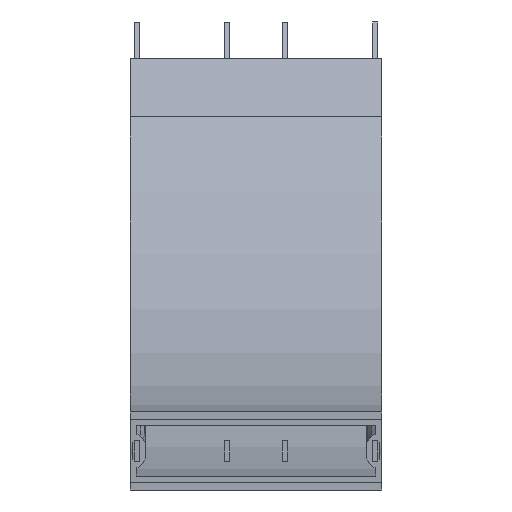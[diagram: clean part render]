
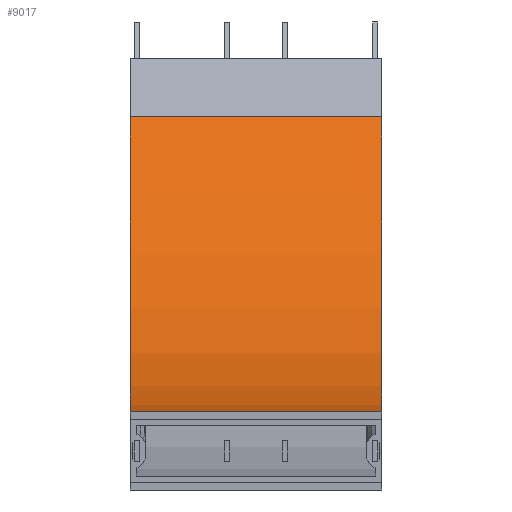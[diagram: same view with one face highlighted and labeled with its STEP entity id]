
A CAD part, front view. The second image highlights one B-rep face of the part: STEP entity #9017.
In plain terms, the highlighted cylindrical face has radius 703.5 mm (diameter 1407 mm), a partial arc.
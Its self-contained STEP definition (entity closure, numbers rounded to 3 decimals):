
#1490 = CIRCLE ( 'NONE', #8290, 703.5 ) ;
#1494 = EDGE_CURVE ( 'NONE', #6695, #5690, #5307, .T. ) ;
#1569 = DIRECTION ( 'NONE',  ( 0., 0., 1. ) ) ;
#1655 = DIRECTION ( 'NONE',  ( 0., 0.866, -0.5 ) ) ;
#1683 = EDGE_CURVE ( 'NONE', #5690, #7223, #2673, .T. ) ;
#1761 = EDGE_CURVE ( 'NONE', #10192, #7223, #2858, .T. ) ;
#2199 = CARTESIAN_POINT ( 'NONE',  ( -150., 80., 46.5 ) ) ;
#2673 = CIRCLE ( 'NONE', #6654, 703.5 ) ;
#2813 = DIRECTION ( 'NONE',  ( -1., 0., 0. ) ) ;
#2858 = LINE ( 'NONE', #2956, #6490 ) ;
#2956 = CARTESIAN_POINT ( 'NONE',  ( -150., 80., 46.5 ) ) ;
#3937 = ORIENTED_EDGE ( 'NONE', *, *, #9902, .F. ) ;
#4165 = CARTESIAN_POINT ( 'NONE',  ( 150., 689.249, 398.25 ) ) ;
#4193 = CARTESIAN_POINT ( 'NONE',  ( 150., 80., 750. ) ) ;
#4507 = CARTESIAN_POINT ( 'NONE',  ( 150., 80., 46.5 ) ) ;
#4520 = CARTESIAN_POINT ( 'NONE',  ( -150., 689.249, 398.25 ) ) ;
#4558 = CARTESIAN_POINT ( 'NONE',  ( -150., 80., 750. ) ) ;
#5307 = LINE ( 'NONE', #4520, #5700 ) ;
#5690 = VERTEX_POINT ( 'NONE', #10091 ) ;
#5700 = VECTOR ( 'NONE', #7693, 1000. ) ;
#6490 = VECTOR ( 'NONE', #2813, 1000. ) ;
#6654 = AXIS2_PLACEMENT_3D ( 'NONE', #4558, #9138, #6906 ) ;
#6695 = VERTEX_POINT ( 'NONE', #4165 ) ;
#6906 = DIRECTION ( 'NONE',  ( 0., 0.866, -0.5 ) ) ;
#7184 = CARTESIAN_POINT ( 'NONE',  ( 0., 80., 750. ) ) ;
#7223 = VERTEX_POINT ( 'NONE', #2199 ) ;
#7243 = FACE_OUTER_BOUND ( 'NONE', #10026, .T. ) ;
#7693 = DIRECTION ( 'NONE',  ( -1., 0., 0. ) ) ;
#8290 = AXIS2_PLACEMENT_3D ( 'NONE', #4193, #8863, #1655 ) ;
#8624 = CYLINDRICAL_SURFACE ( 'NONE', #9769, 703.5 ) ;
#8863 = DIRECTION ( 'NONE',  ( -1., 0., 0. ) ) ;
#8910 = ORIENTED_EDGE ( 'NONE', *, *, #1761, .F. ) ;
#9017 = ADVANCED_FACE ( 'NONE', ( #7243 ), #8624, .F. ) ;
#9138 = DIRECTION ( 'NONE',  ( -1., 0., 0. ) ) ;
#9664 = ORIENTED_EDGE ( 'NONE', *, *, #1683, .T. ) ;
#9769 = AXIS2_PLACEMENT_3D ( 'NONE', #7184, #10222, #1569 ) ;
#9902 = EDGE_CURVE ( 'NONE', #6695, #10192, #1490, .T. ) ;
#9973 = ORIENTED_EDGE ( 'NONE', *, *, #1494, .T. ) ;
#10026 = EDGE_LOOP ( 'NONE', ( #8910, #3937, #9973, #9664 ) ) ;
#10091 = CARTESIAN_POINT ( 'NONE',  ( -150., 689.249, 398.25 ) ) ;
#10192 = VERTEX_POINT ( 'NONE', #4507 ) ;
#10222 = DIRECTION ( 'NONE',  ( -1., 0., 0. ) ) ;
